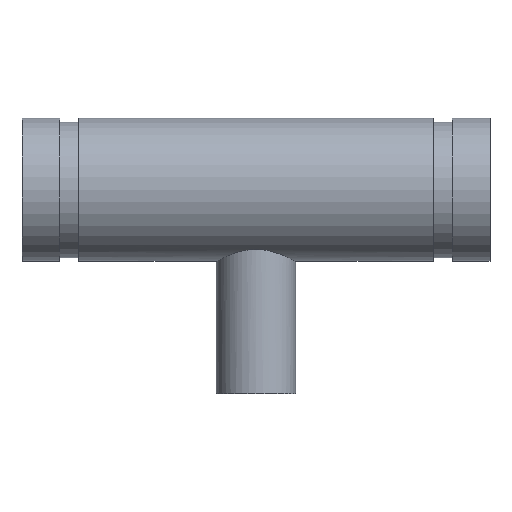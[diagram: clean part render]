
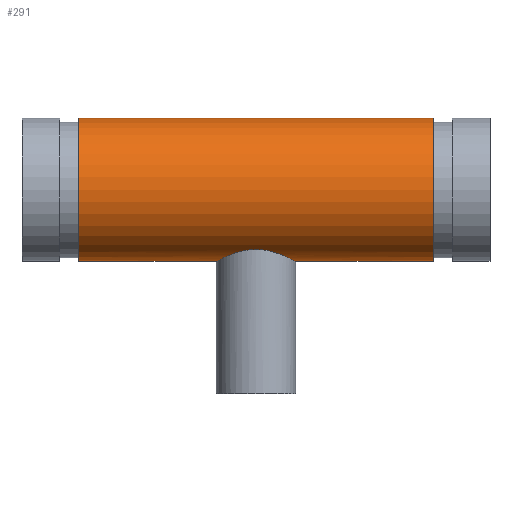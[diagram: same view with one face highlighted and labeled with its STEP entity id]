
A CAD part, top view. The second image highlights one B-rep face of the part: STEP entity #291.
In plain terms, the highlighted cylindrical face has radius 30.163 mm (diameter 60.325 mm), a full revolution.
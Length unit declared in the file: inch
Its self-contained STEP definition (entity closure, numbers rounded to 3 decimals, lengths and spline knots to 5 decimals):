
#45=B_SPLINE_CURVE_WITH_KNOTS('',3,(#511,#512,#513,#514,#515,#516,#517,
#518,#519,#520,#521,#522,#523,#524,#525,#526,#527,#528,#529,#530,#531,#532,
#533,#534,#535,#536,#537,#538,#539,#540,#541,#542,#543,#544,#545,#546,#547,
#548,#549,#550,#551,#552,#553,#554),.UNSPECIFIED.,.F.,.F.,(4,2,2,2,2,2,
2,2,2,2,2,2,2,2,2,2,2,2,2,2,2,4),(0.,0.32343,0.64685,
1.29371,1.61572,1.93773,2.25974,2.58175,
2.90376,3.22577,3.54778,3.8698,4.51665,
4.84008,5.16351,5.48693,5.81036,6.45721,
6.77923,7.10124,7.42325,7.74526),
 .UNSPECIFIED.);
#46=B_SPLINE_CURVE_WITH_KNOTS('',3,(#555,#556,#557,#558,#559,#560,#561,
#562,#563,#564,#565,#566,#567,#568,#569,#570),.UNSPECIFIED.,.F.,.F.,(4,
2,2,2,2,2,2,4),(7.74526,8.06727,8.38928,8.71129,
9.0333,9.68016,10.00358,10.32701),
 .UNSPECIFIED.);
#51=LINE('',#508,#59);
#59=VECTOR('',#410,1.1875);
#67=CYLINDRICAL_SURFACE('',#338,1.1875);
#77=FACE_BOUND('',#108,.T.);
#88=FACE_OUTER_BOUND('',#107,.T.);
#107=EDGE_LOOP('',(#221,#222,#223,#224));
#108=EDGE_LOOP('',(#225,#226));
#121=CIRCLE('',#321,1.1875);
#132=CIRCLE('',#337,1.1875);
#141=VERTEX_POINT('',#476);
#152=VERTEX_POINT('',#505);
#153=VERTEX_POINT('',#509);
#154=VERTEX_POINT('',#510);
#165=EDGE_CURVE('',#141,#141,#121,.T.);
#178=EDGE_CURVE('',#152,#152,#132,.T.);
#179=EDGE_CURVE('',#152,#141,#51,.T.);
#180=EDGE_CURVE('',#153,#154,#45,.T.);
#181=EDGE_CURVE('',#154,#153,#46,.T.);
#221=ORIENTED_EDGE('',*,*,#178,.T.);
#222=ORIENTED_EDGE('',*,*,#179,.T.);
#223=ORIENTED_EDGE('',*,*,#165,.T.);
#224=ORIENTED_EDGE('',*,*,#179,.F.);
#225=ORIENTED_EDGE('',*,*,#180,.F.);
#226=ORIENTED_EDGE('',*,*,#181,.F.);
#291=ADVANCED_FACE('',(#88,#77),#67,.T.);
#321=AXIS2_PLACEMENT_3D('',#477,#372,#373);
#337=AXIS2_PLACEMENT_3D('',#506,#406,#407);
#338=AXIS2_PLACEMENT_3D('',#507,#408,#409);
#372=DIRECTION('center_axis',(-1.,0.,0.));
#373=DIRECTION('ref_axis',(0.,-1.,0.));
#406=DIRECTION('center_axis',(1.,0.,0.));
#407=DIRECTION('ref_axis',(0.,-1.,0.));
#408=DIRECTION('center_axis',(-1.,0.,0.));
#409=DIRECTION('ref_axis',(0.,-1.,0.));
#410=DIRECTION('',(1.,0.,0.));
#476=CARTESIAN_POINT('',(2.942,1.1875,0.));
#477=CARTESIAN_POINT('Origin',(2.942,0.,0.));
#505=CARTESIAN_POINT('',(-2.942,1.1875,0.));
#506=CARTESIAN_POINT('Origin',(-2.942,0.,0.));
#507=CARTESIAN_POINT('Origin',(3.88,0.,0.));
#508=CARTESIAN_POINT('',(3.88,1.1875,0.));
#509=CARTESIAN_POINT('',(0.,-0.98886,-0.6575));
#510=CARTESIAN_POINT('',(-0.6575,-1.1875,0.));
#511=CARTESIAN_POINT('Ctrl Pts',(0.,-0.98886,-0.6575));
#512=CARTESIAN_POINT('Ctrl Pts',(0.04244,-0.98886,-0.6575));
#513=CARTESIAN_POINT('Ctrl Pts',(0.08592,-0.99168,
-0.65333));
#514=CARTESIAN_POINT('Ctrl Pts',(0.17166,-1.00275,-0.6362));
#515=CARTESIAN_POINT('Ctrl Pts',(0.21393,-1.01099,-0.62326));
#516=CARTESIAN_POINT('Ctrl Pts',(0.3348,-1.04108,-0.57258));
#517=CARTESIAN_POINT('Ctrl Pts',(0.40744,-1.06825,-0.5224));
#518=CARTESIAN_POINT('Ctrl Pts',(0.49354,-1.10488,-0.43631));
#519=CARTESIAN_POINT('Ctrl Pts',(0.52056,-1.11731,-0.40392));
#520=CARTESIAN_POINT('Ctrl Pts',(0.56851,-1.14044,-0.33307));
#521=CARTESIAN_POINT('Ctrl Pts',(0.58944,-1.15112,-0.2946));
#522=CARTESIAN_POINT('Ctrl Pts',(0.6233,-1.16882,-0.21383));
#523=CARTESIAN_POINT('Ctrl Pts',(0.63626,-1.17585,-0.17146));
#524=CARTESIAN_POINT('Ctrl Pts',(0.65336,-1.18519,-0.08567));
#525=CARTESIAN_POINT('Ctrl Pts',(0.6575,-1.1875,-0.04226));
#526=CARTESIAN_POINT('Ctrl Pts',(0.6575,-1.1875,0.04226));
#527=CARTESIAN_POINT('Ctrl Pts',(0.65336,-1.18519,0.08567));
#528=CARTESIAN_POINT('Ctrl Pts',(0.63626,-1.17585,0.17146));
#529=CARTESIAN_POINT('Ctrl Pts',(0.6233,-1.16882,0.21383));
#530=CARTESIAN_POINT('Ctrl Pts',(0.58944,-1.15112,0.2946));
#531=CARTESIAN_POINT('Ctrl Pts',(0.56851,-1.14044,0.33307));
#532=CARTESIAN_POINT('Ctrl Pts',(0.52056,-1.11731,0.40392));
#533=CARTESIAN_POINT('Ctrl Pts',(0.49354,-1.10488,0.43631));
#534=CARTESIAN_POINT('Ctrl Pts',(0.40744,-1.06825,0.5224));
#535=CARTESIAN_POINT('Ctrl Pts',(0.3348,-1.04108,0.57258));
#536=CARTESIAN_POINT('Ctrl Pts',(0.21393,-1.01099,0.62326));
#537=CARTESIAN_POINT('Ctrl Pts',(0.17166,-1.00275,0.6362));
#538=CARTESIAN_POINT('Ctrl Pts',(0.08592,-0.99168,
0.65333));
#539=CARTESIAN_POINT('Ctrl Pts',(0.04244,-0.98886,0.6575));
#540=CARTESIAN_POINT('Ctrl Pts',(-0.04244,-0.98886,
0.6575));
#541=CARTESIAN_POINT('Ctrl Pts',(-0.08592,-0.99168,
0.65333));
#542=CARTESIAN_POINT('Ctrl Pts',(-0.17166,-1.00275,0.6362));
#543=CARTESIAN_POINT('Ctrl Pts',(-0.21393,-1.01099,0.62326));
#544=CARTESIAN_POINT('Ctrl Pts',(-0.3348,-1.04108,0.57258));
#545=CARTESIAN_POINT('Ctrl Pts',(-0.40744,-1.06825,0.5224));
#546=CARTESIAN_POINT('Ctrl Pts',(-0.49354,-1.10488,0.43631));
#547=CARTESIAN_POINT('Ctrl Pts',(-0.52056,-1.11731,0.40392));
#548=CARTESIAN_POINT('Ctrl Pts',(-0.56851,-1.14044,0.33307));
#549=CARTESIAN_POINT('Ctrl Pts',(-0.58944,-1.15112,0.2946));
#550=CARTESIAN_POINT('Ctrl Pts',(-0.6233,-1.16882,0.21383));
#551=CARTESIAN_POINT('Ctrl Pts',(-0.63626,-1.17585,0.17146));
#552=CARTESIAN_POINT('Ctrl Pts',(-0.65336,-1.18519,0.08567));
#553=CARTESIAN_POINT('Ctrl Pts',(-0.6575,-1.1875,0.04226));
#554=CARTESIAN_POINT('Ctrl Pts',(-0.6575,-1.1875,0.));
#555=CARTESIAN_POINT('Ctrl Pts',(-0.6575,-1.1875,0.));
#556=CARTESIAN_POINT('Ctrl Pts',(-0.6575,-1.1875,-0.04226));
#557=CARTESIAN_POINT('Ctrl Pts',(-0.65336,-1.18519,-0.08567));
#558=CARTESIAN_POINT('Ctrl Pts',(-0.63626,-1.17585,-0.17146));
#559=CARTESIAN_POINT('Ctrl Pts',(-0.6233,-1.16882,-0.21383));
#560=CARTESIAN_POINT('Ctrl Pts',(-0.58944,-1.15112,-0.2946));
#561=CARTESIAN_POINT('Ctrl Pts',(-0.56851,-1.14044,-0.33307));
#562=CARTESIAN_POINT('Ctrl Pts',(-0.52056,-1.11731,-0.40392));
#563=CARTESIAN_POINT('Ctrl Pts',(-0.49354,-1.10488,-0.43631));
#564=CARTESIAN_POINT('Ctrl Pts',(-0.40744,-1.06825,-0.5224));
#565=CARTESIAN_POINT('Ctrl Pts',(-0.3348,-1.04108,-0.57258));
#566=CARTESIAN_POINT('Ctrl Pts',(-0.21393,-1.01099,-0.62326));
#567=CARTESIAN_POINT('Ctrl Pts',(-0.17166,-1.00275,-0.6362));
#568=CARTESIAN_POINT('Ctrl Pts',(-0.08592,-0.99168,
-0.65333));
#569=CARTESIAN_POINT('Ctrl Pts',(-0.04244,-0.98886,
-0.6575));
#570=CARTESIAN_POINT('Ctrl Pts',(0.,-0.98886,
-0.6575));
